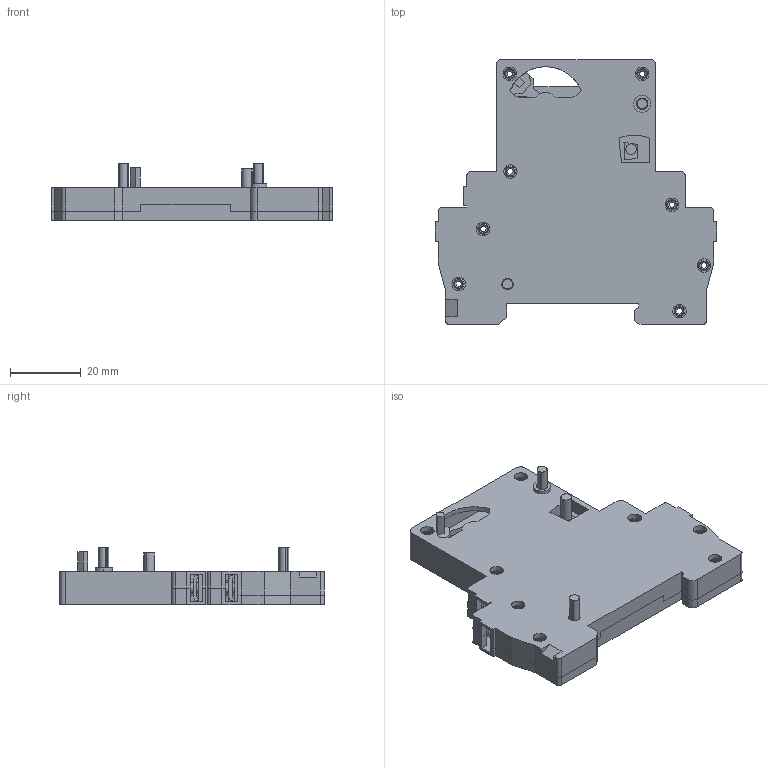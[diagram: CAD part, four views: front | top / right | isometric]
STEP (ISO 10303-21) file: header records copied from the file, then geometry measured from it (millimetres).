
FILE_DESCRIPTION (( 'STEP AP214' ), '1' );
FILE_NAME ('ﾂﾀ47 ﾌﾑﾊ .STEP', '2022-11-18T10:13:58', ( '' ), ( '' ), 'SwSTEP 2.0', 'SolidWorks 2018', '' );
FILE_SCHEMA (( 'AUTOMOTIVE_DESIGN' ));
Length unit declared in the file: millimetre
Products named in the file (11): Çàêëåïêà (ÌÑÊ OFA) 04.2022_1 ¯®«îá; Áîêîâèíà ëåâàÿ (ÌÑÊ Changan) 04.2022; ﾂ鏆鮏 ﾌﾑﾊ 2 Changan; ﾂﾀ47 ﾌﾑﾊ ; Ðó÷êà ÌÑÊ Changan 04.2022; ﾂ鏆鮏 ﾌﾑﾊ 1 Changan; Âèíò (ÌÑÊ Changan) 04.2022; 青汶篪赅 (吕47-29) 14.02.2022; ﾘ ﾍﾐ Cangan; Ðåéêà ÌÑÊ Changan 04.2022; Áîêîâèíà ïðàâàÿ (ÌÑÊ Changan) 04.2022
Assembly tree (24 placements, depth 2):
  ﾂﾀ47 ﾌﾑﾊ 
    Áîêîâèíà ïðàâàÿ (ÌÑÊ Changan) 04.2022
    Áîêîâèíà ëåâàÿ (ÌÑÊ Changan) 04.2022
    青汶篪赅 (吕47-29) 14.02.2022
    Çàêëåïêà (ÌÑÊ OFA) 04.2022_1 ¯®«îá  x8
    ﾂ鏆鮏 ﾌﾑﾊ 1 Changan  x3
    ﾂ鏆鮏 ﾌﾑﾊ 2 Changan  x3
    Âèíò (ÌÑÊ Changan) 04.2022  x3
    Ðó÷êà ÌÑÊ Changan 04.2022
    Ðåéêà ÌÑÊ Changan 04.2022
    ﾘ ﾍﾐ Cangan  x2
Bounding box: 79.3 x 74.6 x 16.2 mm (x, y, z)
Volume: 33971.5 mm3; surface area: 26293.6 mm2
Topology: 24 solids, 24 shells, 741 faces, 1833 edges, 1188 vertices
Faces by surface type: plane 417, cylinder 216, torus 108
Entity records: 14835 total; most frequent: CARTESIAN_POINT 2529, DIRECTION 2527, ORIENTED_EDGE 2402, EDGE_CURVE 1201, AXIS2_PLACEMENT_3D 854, VECTOR 819, LINE 819, VERTEX_POINT 792
